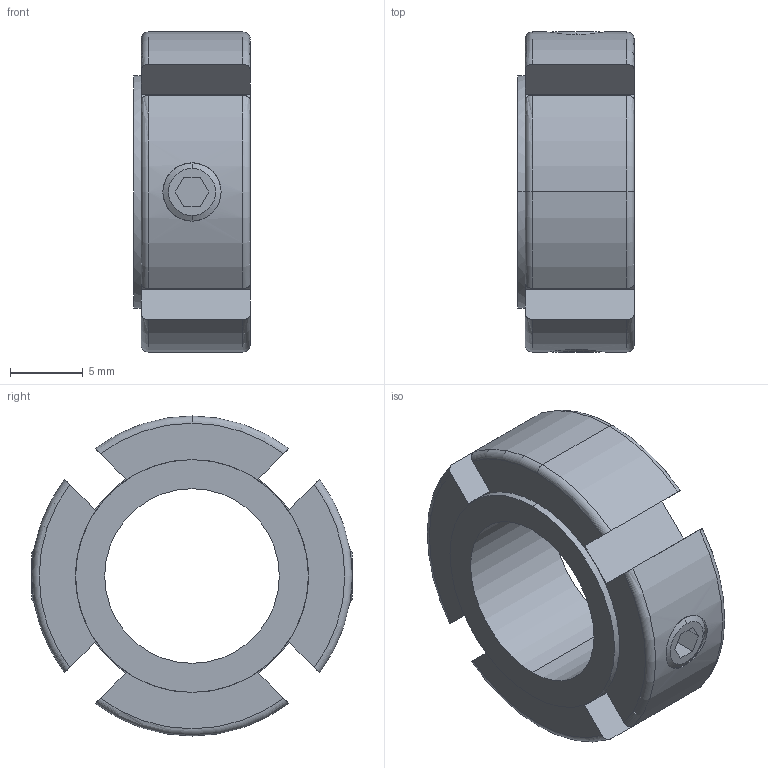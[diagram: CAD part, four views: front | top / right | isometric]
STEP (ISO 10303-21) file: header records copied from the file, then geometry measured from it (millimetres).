
FILE_DESCRIPTION (( 'STEP AP214' ), '1' );
FILE_NAME ('ZN12.STEP', '2020-02-28T07:00:59', ( '' ), ( '' ), 'SwSTEP 2.0', 'SolidWorks 2015', '' );
FILE_SCHEMA (( 'AUTOMOTIVE_DESIGN' ));
Length unit declared in the file: millimetre
Products named in the file (1): ZN12
Bounding box: 8 x 22 x 22 mm (x, y, z)
Volume: 1763.5 mm3; surface area: 1481.4 mm2
Topology: 1 solids, 1 shells, 61 faces, 155 edges, 100 vertices
Faces by surface type: plane 34, cylinder 13, torus 10, cone 4
Entity records: 2692 total; most frequent: CARTESIAN_POINT 509, ORIENTED_EDGE 310, DIRECTION 301, EDGE_CURVE 155, AXIS2_PLACEMENT_3D 104, VERTEX_POINT 100, LINE 93, VECTOR 93
